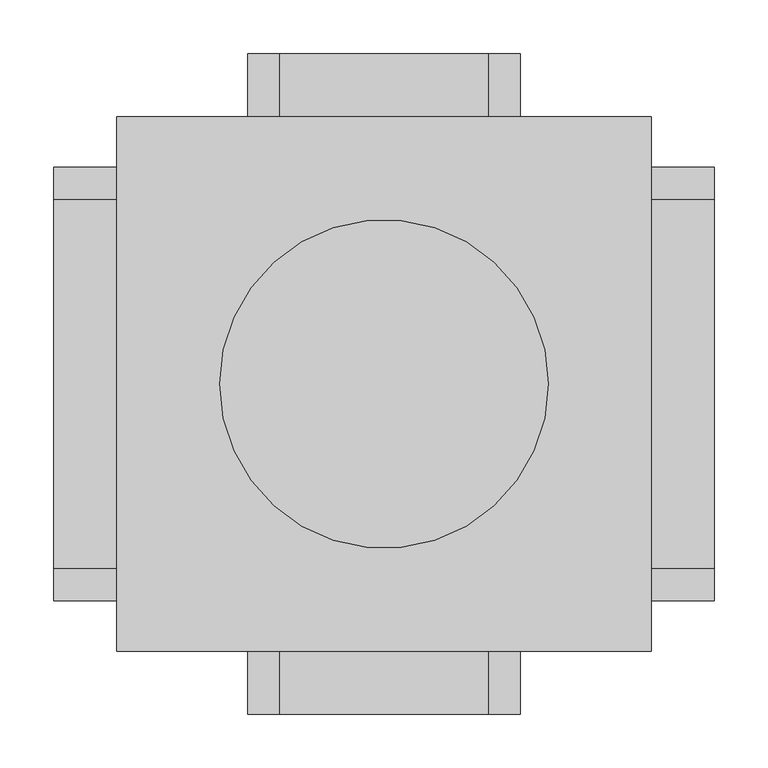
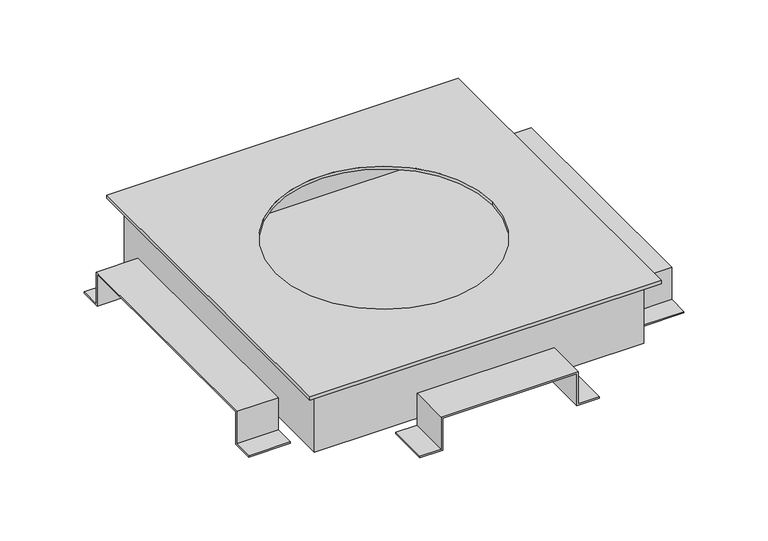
"""IFC4 building model written with IfcOpenShell, lengths in millimetres: cable carrier fitting geometry, Electrical-Installations_Hager_Universal-Junction-Box-With-Retaining-Tabs-Size-3 : Universal junction box with retaining tabs size 3."""

from ifc_helpers import new_model, si_unit, frame, origin, place, context, project, spatial, polyline, circle_curve, outline, extrude, faceted_brep, source, transform, mapped, element, save
from ifc_brep_helpers import plane_surface, revolved_surface, advanced_brep


def cable_carrier_fitting_8ec82d7f(model_context):
    return source(origin(), model_context, "Body", "SolidModel", [
        extrude(outline(polyline([(-24.0, -127.0), (-24.0, -95.0), (24.0, -95.0), (24.0, 95.0), (-24.0, 95.0), (-24.0, 127.0), (-22.0, 127.0), (-22.0, 97.0), (26.0, 97.0), (26.0, -97.0), (-22.0, -97.0), (-22.0, -127.0), (-24.0, -127.0)])), frame((0.0, 249.0, 0.0), z_axis=(0.0, 1.0, 0.0), x_axis=(0.0, 0.0, 1.0)), (0.0, 0.0, 1.0), 59.0),
        extrude(outline(polyline([(-202.0, -24.0), (-202.0, -22.0), (-172.0, -22.0), (-172.0, 26.0), (172.0, 26.0), (172.0, -22.0), (202.0, -22.0), (202.0, -24.0), (170.0, -24.0), (170.0, 24.0), (-170.0, 24.0), (-170.0, -24.0), (-202.0, -24.0)])), frame((-308.0, 0.0, 0.0), z_axis=(1.0, 0.0, 0.0), x_axis=(0.0, 1.0, 0.0)), (0.0, 0.0, 1.0), 59.0),
        extrude(outline(polyline([(-24.0, -127.0), (-24.0, -95.0), (24.0, -95.0), (24.0, 95.0), (-24.0, 95.0), (-24.0, 127.0), (-22.0, 127.0), (-22.0, 97.0), (26.0, 97.0), (26.0, -97.0), (-22.0, -97.0), (-22.0, -127.0), (-24.0, -127.0)])), frame((0.0, -308.0, 0.0), z_axis=(0.0, 1.0, 0.0), x_axis=(0.0, 0.0, 1.0)), (0.0, 0.0, 1.0), 59.0),
        extrude(outline(polyline([(-202.0, -24.0), (-202.0, -22.0), (-172.0, -22.0), (-172.0, 26.0), (172.0, 26.0), (172.0, -22.0), (202.0, -22.0), (202.0, -24.0), (170.0, -24.0), (170.0, 24.0), (-170.0, 24.0), (-170.0, -24.0), (-202.0, -24.0)])), frame((249.0, 0.0, 0.0), z_axis=(1.0, 0.0, 0.0), x_axis=(0.0, 1.0, 0.0)), (0.0, 0.0, 1.0), 59.0),
        advanced_brep(
        [(-249.0, -249.0, 74.0), (249.0, -249.0, 74.0), (249.0, 249.0, 74.0), (-249.0, 249.0, 74.0), (-153.0, 0.0, 74.0), (153.0, 0.0, 74.0), (-249.0, -249.0, 69.0), (-249.0, 249.0, 69.0), (249.0, 249.0, 69.0), (249.0, -249.0, 69.0), (227.0, 227.0, 69.0), (-227.0, 227.0, 69.0), (-227.0, -227.0, 69.0), (227.0, -227.0, 69.0), (-153.0, 0.0, 69.7820613), (153.0, 0.0, 69.7820613), (227.0, 227.0, 69.7820613), (227.0, -227.0, 69.7820613), (-227.0, -227.0, 69.7820613), (-227.0, 227.0, 69.7820613)],
        [
            (0, 1),
            (1, 2),
            (2, 3),
            (3, 0),
            (4, 5, circle_curve(frame((0.0, 0.0, 74.0), z_axis=(0.0, 0.0, -1.0), x_axis=(1.0, 0.0, 0.0)), 153.0)),
            (5, 4, circle_curve(frame((0.0, 0.0, 74.0), z_axis=(0.0, 0.0, -1.0), x_axis=(1.0, 0.0, 0.0)), 153.0)),
            (6, 7),
            (7, 8),
            (8, 9),
            (9, 6),
            (10, 11),
            (11, 12),
            (12, 13),
            (13, 10),
            (0, 6),
            (9, 1),
            (8, 2),
            (7, 3),
            (4, 14),
            (14, 15, circle_curve(frame((0.0, 0.0, 69.7820613), z_axis=(0.0, 0.0, -1.0), x_axis=(1.0, 0.0, 0.0)), 153.0)),
            (15, 5),
            (15, 14, circle_curve(frame((0.0, 0.0, 69.7820613), z_axis=(0.0, 0.0, -1.0), x_axis=(1.0, 0.0, 0.0)), 153.0)),
            (16, 17),
            (17, 18),
            (18, 19),
            (19, 16),
            (19, 11),
            (10, 16),
            (18, 12),
            (17, 13),
        ],
        [
            plane_surface(frame((-249.0, -249.0, 74.0), z_axis=(0.0, 0.0, 1.0), x_axis=(1.0, 0.0, 0.0))),
            plane_surface(frame((-249.0, -249.0, 69.0), z_axis=(0.0, 0.0, -1.0), x_axis=(-1.0, 0.0, 0.0))),
            plane_surface(frame((-249.0, -249.0, 74.0), z_axis=(0.0, -1.0, 0.0), x_axis=(0.0, 0.0, -1.0))),
            plane_surface(frame((249.0, -249.0, 74.0), z_axis=(1.0, 0.0, 0.0), x_axis=(0.0, 0.0, -1.0))),
            plane_surface(frame((249.0, 249.0, 74.0), z_axis=(0.0, 1.0, 0.0), x_axis=(0.0, 0.0, -1.0))),
            plane_surface(frame((-249.0, 249.0, 74.0), z_axis=(-1.0, 0.0, 0.0), x_axis=(0.0, 0.0, -1.0))),
            revolved_surface(polyline([(153.0, 0.0, 69.7820613), (153.0, 0.0, 74.0)]), (0.0, 0.0, 0.0), (0.0, 0.0, -1.0)),
            plane_surface(frame((-227.0, 227.0, 69.7820613), z_axis=(0.0, 0.0, -1.0), x_axis=(-1.0, 0.0, 0.0))),
            plane_surface(frame((227.0, 227.0, 69.7820613), z_axis=(0.0, -1.0, 0.0), x_axis=(0.0, 0.0, -1.0))),
            plane_surface(frame((-227.0, 227.0, 69.7820613), z_axis=(1.0, 0.0, 0.0), x_axis=(0.0, 0.0, -1.0))),
            plane_surface(frame((-227.0, -227.0, 69.7820613), z_axis=(0.0, 1.0, 0.0), x_axis=(0.0, 0.0, -1.0))),
            plane_surface(frame((227.0, -227.0, 69.7820613), z_axis=(-1.0, 0.0, 0.0), x_axis=(0.0, 0.0, -1.0))),
        ],
        [
            (0, [[1, 2, 3, 4], [5, 6]]),
            (1, [[7, 8, 9, 10], [11, 12, 13, 14]]),
            (2, [[-1, 15, -10, 16]]),
            (3, [[-2, -16, -9, 17]]),
            (4, [[-3, -17, -8, 18]]),
            (5, [[-4, -18, -7, -15]]),
            (6, [[-5, 19, 20, 21]]),
            (6, [[-6, -21, 22, -19]]),
            (7, [[23, 24, 25, 26], [-20, -22]]),
            (8, [[-26, 27, -11, 28]]),
            (9, [[-25, 29, -12, -27]]),
            (10, [[-24, 30, -13, -29]]),
            (11, [[-23, -28, -14, -30]]),
        ],
    ),
        faceted_brep([(-233.0, 233.0, 69.0), (-233.0, -233.0, 69.0), (233.0, -233.0, 69.0), (233.0, 233.0, 69.0), (-227.0, 227.0, 69.0), (227.0, 227.0, 69.0), (227.0, -227.0, 69.0), (-227.0, -227.0, 69.0), (-233.0, 233.0, -24.0), (233.0, 233.0, -24.0), (233.0, -233.0, -24.0), (-233.0, -233.0, -24.0), (227.0, 227.0, -16.1362798), (-227.0, 227.0, -16.1362798), (-227.0, -227.0, -16.1362798), (227.0, -227.0, -16.1362798)], [[[0, 1, 2, 3], [4, 5, 6, 7]], [[8, 9, 10, 11]], [[1, 0, 8, 11]], [[2, 1, 11, 10]], [[3, 2, 10, 9]], [[0, 3, 9, 8]], [[12, 13, 14, 15]], [[13, 12, 5, 4]], [[14, 13, 4, 7]], [[15, 14, 7, 6]], [[12, 15, 6, 5]]]),
    ])


if __name__ == "__main__":
    model = new_model("IFC4")
    model_context = context("Model", 3, world=origin())
    ifc_project = project(units=[si_unit("LENGTHUNIT", "METRE", prefix="MILLI")], contexts=[model_context])
    site = spatial("IfcSite", under=ifc_project)
    building = spatial("IfcBuilding", under=site)
    placement = place(None, origin())
    cable_carrier_fitting_shape = cable_carrier_fitting_8ec82d7f(model_context)
    element("IfcCableCarrierFitting", 1, ObjectType="Electrical-Installations_Hager_Universal-Junction-Box-With-Retaining-Tabs-Size-3 : Universal junction box with retaining tabs size 3", at=placement, inside=building, context=model_context, shape_type="MappedRepresentation", body=[
        mapped(cable_carrier_fitting_shape, transform((0.0, 0.0, 0.0), x_axis=(1.0, 0.0, 0.0), y_axis=(0.0, 1.0, 0.0), z_axis=(0.0, 0.0, 1.0))),
    ])
    save(model, "model.ifc")
